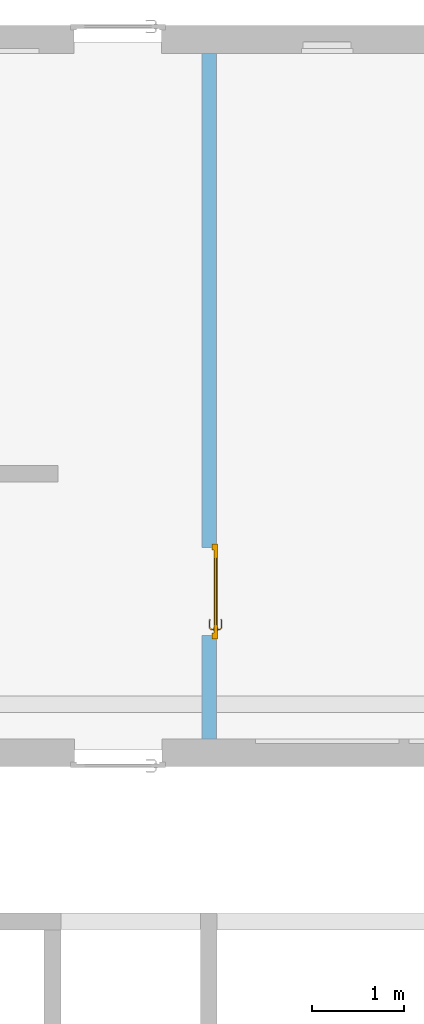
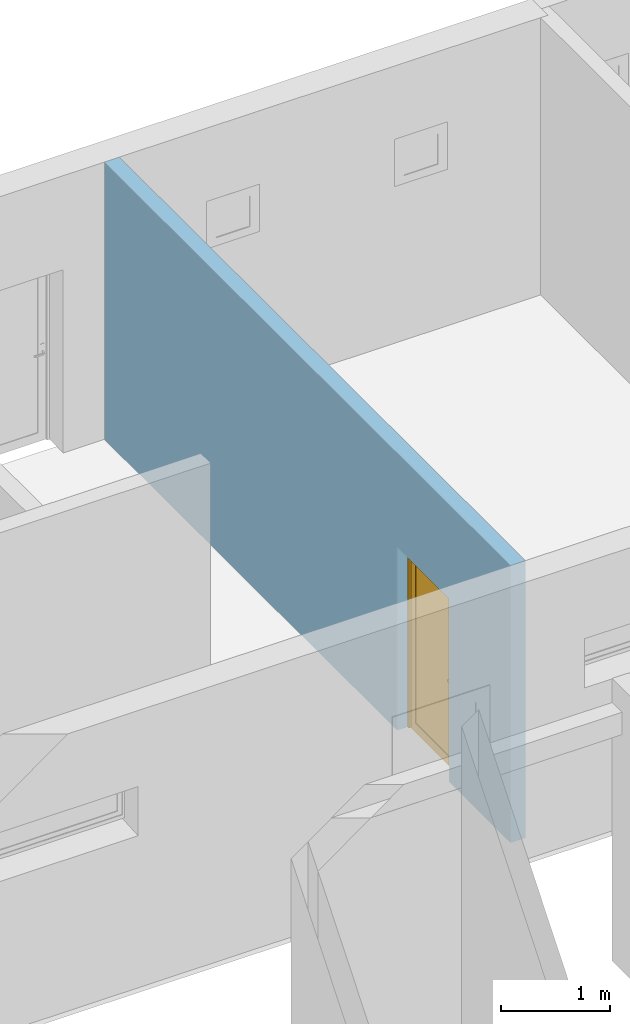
# One storey, part 6 of 9: 1 door, 1 opening, plus 1 element that does not belong to this part.
"""IFC2X3 building model written with IfcOpenShell, lengths in metres."""

from ifc_helpers import new_model, entity, si_unit, converted_unit, derived_unit, direction, frame, frame_2d, origin, place, context, subcontext, project, spatial, polyline, rectangle, extrude, clip, bounded_halfspace, faceted_brep, source, transform, mapped, material, layer, layer_set, layer_usage, type_object, type_shapes, element, fill, save


model = new_model("IFC2X3")

# Units and contexts
model_context = context("Model", 3, precision=1e-05, world=origin(), true_north=direction((6.12303176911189e-17, 1.0)))
body_context = subcontext(model_context, "Body", "Model", "MODEL_VIEW")
ifc_project = project(units=[si_unit("LENGTHUNIT", "METRE"), si_unit("AREAUNIT", "SQUARE_METRE"), si_unit("VOLUMEUNIT", "CUBIC_METRE"), converted_unit("PLANEANGLEUNIT", "DEGREE", entity("IfcRatioMeasure", 0.0174532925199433), si_unit("PLANEANGLEUNIT", "RADIAN"), dimensions=[0, 0, 0, 0, 0, 0, 0]), si_unit("MASSUNIT", "GRAM", prefix="KILO"), derived_unit("MASSDENSITYUNIT", [(si_unit("MASSUNIT", "GRAM", prefix="KILO"), 1), (si_unit("LENGTHUNIT", "METRE"), -3)]), si_unit("TIMEUNIT", "SECOND"), si_unit("FREQUENCYUNIT", "HERTZ"), si_unit("THERMODYNAMICTEMPERATUREUNIT", "DEGREE_CELSIUS"), derived_unit("THERMALTRANSMITTANCEUNIT", [(si_unit("MASSUNIT", "GRAM", prefix="KILO"), 1), (si_unit("THERMODYNAMICTEMPERATUREUNIT", "KELVIN"), -1), (si_unit("TIMEUNIT", "SECOND"), -3)]), derived_unit("VOLUMETRICFLOWRATEUNIT", [(si_unit("LENGTHUNIT", "METRE"), 3), (si_unit("TIMEUNIT", "SECOND"), -1)]), si_unit("ELECTRICCURRENTUNIT", "AMPERE"), si_unit("ELECTRICVOLTAGEUNIT", "VOLT"), si_unit("POWERUNIT", "WATT"), si_unit("FORCEUNIT", "NEWTON", prefix="KILO"), si_unit("ILLUMINANCEUNIT", "LUX"), si_unit("LUMINOUSFLUXUNIT", "LUMEN"), si_unit("LUMINOUSINTENSITYUNIT", "CANDELA"), derived_unit("USERDEFINED", [(si_unit("MASSUNIT", "GRAM", prefix="KILO"), -1), (si_unit("LENGTHUNIT", "METRE"), -2), (si_unit("TIMEUNIT", "SECOND"), 3), (si_unit("LUMINOUSFLUXUNIT", "LUMEN"), 1)]), derived_unit("LINEARVELOCITYUNIT", [(si_unit("LENGTHUNIT", "METRE"), 1), (si_unit("TIMEUNIT", "SECOND"), -1)]), si_unit("PRESSUREUNIT", "PASCAL"), derived_unit("USERDEFINED", [(si_unit("LENGTHUNIT", "METRE"), -2), (si_unit("MASSUNIT", "GRAM", prefix="KILO"), 1), (si_unit("TIMEUNIT", "SECOND"), -2)])], contexts=[model_context])

# Site, building, storey
site_placement = place(None, origin())
site = spatial("IfcSite", under=ifc_project, at=site_placement, Name="Default", CompositionType="ELEMENT")
building_placement = place(site_placement, origin())
building = spatial("IfcBuilding", under=site, at=building_placement, CompositionType="ELEMENT")
storey_placement = place(building_placement, origin())
storey = spatial("IfcBuildingStorey", under=building, at=storey_placement, Name="Niveau 0", CompositionType="ELEMENT", Elevation=-1.94916083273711e-14)

# Wall, opening, door
ifc_material_1 = material(Name="Maçonnerie - Voile BA")
ifc_layer = layer(ifc_material_1, 0.16)
ifc_layer_set = layer_set([ifc_layer], Name="Mur de base:Refend. Voile BA 16")
ifc_layer_usage = layer_usage(ifc_layer_set, "AXIS2", "NEGATIVE", 0.08)
wall_type = type_object("IfcWallType", Name="Mur de base:Refend. Voile BA 16", PredefinedType="STANDARD", material=ifc_layer_set)
wall_placement = place(storey_placement, frame((-1.33395876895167, -4.73088141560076, 0.0), z_axis=(0.0, 0.0, 1.0), x_axis=(0.0, 1.0, 0.0)))
wall = element("IfcWallStandardCase", 1, at=wall_placement, inside=storey, type_object=wall_type, material=ifc_layer_usage, Name="Mur de base:Refend. Voile BA 16", ObjectType="Mur de base:Refend. Voile BA 16", context=body_context, shape_type="Clipping", body=[
    clip(extrude(rectangle(XDim=7.44, YDim=0.16, at=frame_2d((3.72, 0.0), x_axis=(-1.0, 0.0))), origin(), (0.0, 0.0, 1.0), 3.10000000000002), bounded_halfspace(frame((0.0, -0.0799999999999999, 3.10000000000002), z_axis=(0.0, 0.0, -1.0), x_axis=(0.0, -1.0, 0.0)), True, frame((0.0, -0.0799999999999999, 3.10000000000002)), polyline([(0.0, 0.0), (7.44, 0.0), (7.44, 0.159999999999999), (0.0, 0.16), (0.0, 0.0)]))),
])
opening_placement = place(wall_placement, frame((1.08500000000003, 0.380000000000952, 0.0), z_axis=(0.0, 0.0, 1.0), x_axis=(0.0, -1.0, 0.0)))
opening = element("IfcOpeningElement", 2, at=opening_placement, cuts=wall, Name="Mur de base:Refend. Voile BA 16", ObjectType="Opening", context=body_context, shape_type="Brep", body=[
    faceted_brep([(0.760000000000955, 0.989999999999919, 2.05000000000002), (0.460000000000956, 0.989999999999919, 2.05000000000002), (0.460000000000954, 0.0400000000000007, 2.05000000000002), (0.760000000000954, 0.0400000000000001, 2.05000000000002), (0.0, 0.98999999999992, 0.0), (0.410000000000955, 0.989999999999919, 0.0), (0.410000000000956, 1.02999999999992, 0.0), (0.460000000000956, 1.02999999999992, 0.0), (0.460000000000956, 0.989999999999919, 0.0), (0.760000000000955, 0.989999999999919, 0.0), (0.760000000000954, 0.0400000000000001, 0.0), (0.460000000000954, 0.0400000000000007, 0.0), (0.460000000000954, 0.0, 0.0), (0.410000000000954, 0.0, 0.0), (0.410000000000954, 0.0400000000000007, 0.0), (0.0, 0.0400000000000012, 0.0), (0.0, 0.98999999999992, 2.05000000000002), (0.0, 0.0400000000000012, 2.05000000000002), (0.410000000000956, 0.989999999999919, 2.05000000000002), (0.460000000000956, 1.02999999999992, 2.09000000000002), (0.460000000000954, 0.0, 2.09000000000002), (0.410000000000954, 0.0, 2.09000000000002), (0.410000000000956, 1.02999999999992, 2.09000000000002), (0.410000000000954, 0.0400000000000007, 2.05000000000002)], [[[0, 1, 2, 3]], [[4, 5, 6, 7, 8, 9, 10, 11, 12, 13, 14, 15]], [[16, 4, 15, 17]], [[3, 2, 11, 10]], [[3, 10, 9, 0]], [[16, 18, 5, 4]], [[11, 2, 1, 8, 7, 19, 20, 12]], [[12, 20, 21, 13]], [[13, 21, 22, 6, 5, 18, 23, 14]], [[19, 22, 21, 20]], [[7, 6, 22, 19]], [[9, 8, 1, 0]], [[15, 14, 23, 17]], [[17, 23, 18, 16]]]),
])
ifc_material_2 = material(Name="PVC - Blanc")
door_style = type_object("IfcDoorStyle", Name="0.93 x 2.04", ConstructionType="NOTDEFINED", OperationType="SINGLE_SWING_RIGHT", ParameterTakesPrecedence=False, Sizeable=False, material=ifc_material_2)
shared_shape = source(origin(), body_context, "Body", "Brep", [
    faceted_brep([(0.102974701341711, -0.425000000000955, 1.00778044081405), (0.0989999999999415, -0.425000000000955, 1.00699999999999), (0.0989999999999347, -0.425000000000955, 0.992999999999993), (0.102974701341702, -0.425000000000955, 0.992219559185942), (0.107025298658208, -0.425000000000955, 0.992219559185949), (0.11099999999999, -0.425000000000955, 0.993000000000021), (0.110999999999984, -0.425000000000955, 1.00699999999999), (0.107025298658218, -0.425000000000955, 1.00778044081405), (0.11099999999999, -0.402514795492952, 0.993000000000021), (0.11099999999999, -0.402514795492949, 1.00699999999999), (0.107025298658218, -0.400868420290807, 1.00778044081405), (0.120838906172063, -0.387054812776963, 1.00778044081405), (0.119161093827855, -0.383004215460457, 1.00778044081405), (0.102974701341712, -0.399190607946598, 1.00778044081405), (0.210684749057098, -0.393532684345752, 1.00778044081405), (0.213548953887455, -0.390668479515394, 1.00778044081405), (0.205884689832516, -0.383004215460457, 1.00778044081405), (0.204206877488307, -0.387054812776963, 1.00778044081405), (0.0989999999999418, -0.397544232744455, 1.00699999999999), (0.0989999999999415, -0.397544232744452, 0.992999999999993), (0.102974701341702, -0.399190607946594, 0.992219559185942), (0.119161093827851, -0.383004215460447, 0.992219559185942), (0.120838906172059, -0.387054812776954, 0.992219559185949), (0.107025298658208, -0.400868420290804, 0.992219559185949), (0.213548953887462, -0.390668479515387, 0.992219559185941), (0.210684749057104, -0.393532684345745, 0.992219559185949), (0.204206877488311, -0.387054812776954, 0.992219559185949), (0.20588468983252, -0.383004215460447, 0.992219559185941), (0.122485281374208, -0.391029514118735, 0.993000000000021), (0.12248528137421, -0.391029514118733, 1.00699999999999), (0.117514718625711, -0.379029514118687, 1.00699999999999), (0.117514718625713, -0.379029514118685, 0.992999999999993), (0.162522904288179, -0.391029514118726, 0.993000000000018), (0.202560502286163, -0.391029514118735, 0.993000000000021), (0.202560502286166, -0.391029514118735, 1.00699999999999), (0.162522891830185, -0.391029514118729, 1.00699999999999), (0.162522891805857, -0.38487507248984, 1.00787811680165), (0.20753106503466, -0.379029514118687, 1.00699999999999), (0.167600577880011, -0.379029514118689, 1.00699999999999), (0.207531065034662, -0.379029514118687, 0.992999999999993), (0.157445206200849, -0.37902951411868, 0.992999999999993), (0.162522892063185, -0.38487507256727, 0.992121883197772), (0.207874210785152, -0.396343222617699, 0.993000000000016), (0.216359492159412, -0.387857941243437, 0.992999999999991), (0.216359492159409, -0.387857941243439, 1.00699999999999), (0.20787421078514, -0.39634322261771, 1.00699999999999)], [[[0, 1, 2, 3, 4, 5, 6, 7]], [[6, 5, 8, 9]], [[9, 10, 7, 6]], [[10, 11, 12, 13, 0, 7]], [[14, 15, 16, 17]], [[13, 18, 1, 0]], [[2, 1, 18, 19]], [[19, 20, 3, 2]], [[20, 21, 22, 23, 4, 3]], [[24, 25, 26, 27]], [[23, 8, 5, 4]], [[9, 8, 28, 29]], [[29, 11, 10, 9]], [[12, 30, 18, 13]], [[19, 18, 30, 31]], [[31, 21, 20, 19]], [[22, 28, 8, 23]], [[29, 28, 32, 33, 34, 35]], [[11, 35, 36]], [[16, 37, 38]], [[30, 12, 38]], [[38, 12, 36]], [[36, 35, 17]], [[17, 16, 36]], [[35, 11, 29]], [[34, 17, 35]], [[11, 36, 12]], [[38, 36, 16]], [[31, 30, 38, 37, 39, 40]], [[40, 41, 21]], [[41, 40, 27]], [[21, 31, 40]], [[39, 27, 40]], [[41, 32, 22]], [[22, 21, 41]], [[26, 32, 41]], [[28, 22, 32]], [[32, 26, 33]], [[26, 41, 27]], [[42, 25, 24, 43, 44, 15, 14, 45]], [[34, 33, 42, 45]], [[45, 14, 17, 34]], [[15, 44, 37, 16]], [[39, 37, 44, 43]], [[43, 24, 27, 39]], [[25, 42, 33, 26]]]),
    faceted_brep([(0.102974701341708, -0.475000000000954, 1.00778044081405), (0.107025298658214, -0.475000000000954, 1.00778044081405), (0.110999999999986, -0.475000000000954, 1.00699999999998), (0.11099999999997, -0.475000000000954, 0.993000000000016), (0.107025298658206, -0.475000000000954, 0.992219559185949), (0.1029747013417, -0.475000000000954, 0.992219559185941), (0.0989999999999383, -0.475000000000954, 0.992999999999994), (0.0989999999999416, -0.475000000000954, 1.00699999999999), (0.0989999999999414, -0.50265095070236, 1.00699999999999), (0.102974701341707, -0.501004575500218, 1.00778044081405), (0.11902358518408, -0.517053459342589, 1.00778044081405), (0.120701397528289, -0.513002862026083, 1.00778044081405), (0.107025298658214, -0.499326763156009, 1.00778044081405), (0.21352181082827, -0.509389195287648, 1.00778044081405), (0.210657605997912, -0.50652499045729, 1.00778044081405), (0.204179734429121, -0.513002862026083, 1.00778044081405), (0.20585754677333, -0.517053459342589, 1.00778044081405), (0.110999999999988, -0.497680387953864, 1.00699999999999), (0.110999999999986, -0.497680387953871, 0.993000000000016), (0.107025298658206, -0.499326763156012, 0.992219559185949), (0.120701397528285, -0.513002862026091, 0.992219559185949), (0.119023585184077, -0.517053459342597, 0.992219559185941), (0.1029747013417, -0.501004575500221, 0.992219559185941), (0.210657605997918, -0.506524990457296, 0.992219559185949), (0.213521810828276, -0.509389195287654, 0.992219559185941), (0.205857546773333, -0.517053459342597, 0.992219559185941), (0.204179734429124, -0.513002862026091, 0.992219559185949), (0.0989999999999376, -0.502650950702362, 0.992999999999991), (0.117377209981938, -0.521028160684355, 1.00699999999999), (0.122347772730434, -0.509028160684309, 1.00699999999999), (0.122347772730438, -0.509028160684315, 0.993000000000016), (0.117377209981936, -0.521028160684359, 0.992999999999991), (0.157307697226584, -0.521028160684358, 1.00699999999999), (0.162440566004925, -0.515182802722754, 1.00787811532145), (0.207503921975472, -0.521028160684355, 1.00699999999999), (0.162440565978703, -0.509028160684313, 1.00699999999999), (0.202533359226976, -0.509028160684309, 1.00699999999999), (0.202533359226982, -0.50902816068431, 0.993000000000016), (0.162440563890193, -0.509028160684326, 0.993000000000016), (0.1624405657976, -0.515182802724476, 0.992121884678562), (0.207503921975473, -0.521028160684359, 0.992999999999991), (0.167573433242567, -0.521028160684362, 0.992999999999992), (0.207847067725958, -0.503714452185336, 1.00699999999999), (0.216332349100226, -0.512199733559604, 1.00699999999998), (0.216332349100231, -0.512199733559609, 0.992999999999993), (0.207847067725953, -0.503714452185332, 0.993000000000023)], [[[0, 1, 2, 3, 4, 5, 6, 7]], [[8, 9, 0, 7]], [[9, 10, 11, 12, 1, 0]], [[13, 14, 15, 16]], [[12, 17, 2, 1]], [[3, 2, 17, 18]], [[18, 19, 4, 3]], [[19, 20, 21, 22, 5, 4]], [[23, 24, 25, 26]], [[22, 27, 6, 5]], [[7, 6, 27, 8]], [[28, 10, 9, 8]], [[11, 29, 17, 12]], [[18, 17, 29, 30]], [[30, 20, 19, 18]], [[21, 31, 27, 22]], [[8, 27, 31, 28]], [[32, 33, 10]], [[33, 32, 16]], [[10, 28, 32]], [[34, 16, 32]], [[33, 35, 11]], [[11, 10, 33]], [[15, 35, 33]], [[29, 11, 35]], [[35, 15, 36]], [[15, 33, 16]], [[30, 29, 35, 36, 37, 38]], [[20, 38, 39]], [[25, 40, 41]], [[31, 21, 41]], [[41, 21, 39]], [[39, 38, 26]], [[26, 25, 39]], [[38, 20, 30]], [[37, 26, 38]], [[20, 39, 21]], [[41, 39, 25]], [[28, 31, 41, 40, 34, 32]], [[42, 14, 13, 43, 44, 24, 23, 45]], [[43, 13, 16, 34]], [[14, 42, 36, 15]], [[37, 36, 42, 45]], [[45, 23, 26, 37]], [[24, 44, 40, 25]], [[34, 40, 44, 43]]]),
    faceted_brep([(0.11535276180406, -0.430000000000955, 0.866003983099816), (0.124999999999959, -0.430000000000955, 0.870000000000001), (0.124999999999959, -0.430000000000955, 1.08), (0.11535276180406, -0.430000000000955, 1.08399601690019), (0.104999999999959, -0.430000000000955, 1.08535898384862), (0.0946472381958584, -0.430000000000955, 1.08399601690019), (0.0849999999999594, -0.430000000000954, 1.08), (0.0849999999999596, -0.430000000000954, 0.870000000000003), (0.0946472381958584, -0.430000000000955, 0.866003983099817), (0.104999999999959, -0.430000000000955, 0.864641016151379), (0.11535276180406, -0.425000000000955, 1.08399601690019), (0.124999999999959, -0.425000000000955, 1.08), (0.124999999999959, -0.425000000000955, 0.870000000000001), (0.11535276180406, -0.425000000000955, 0.866003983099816), (0.104999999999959, -0.425000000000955, 0.864641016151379), (0.0946472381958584, -0.425000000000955, 0.866003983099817), (0.0849999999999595, -0.425000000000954, 0.870000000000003), (0.0849999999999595, -0.425000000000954, 1.08), (0.0946472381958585, -0.425000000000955, 1.08399601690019), (0.104999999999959, -0.425000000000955, 1.08535898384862)], [[[0, 1, 2, 3, 4, 5, 6, 7, 8, 9]], [[10, 11, 12, 13, 14, 15, 16, 17, 18, 19]], [[11, 10, 3, 2]], [[3, 10, 19, 4]], [[19, 18, 5, 4]], [[18, 17, 6, 5]], [[7, 6, 17, 16]], [[16, 15, 8, 7]], [[8, 15, 14, 9]], [[14, 13, 0, 9]], [[13, 12, 1, 0]], [[2, 1, 12, 11]]]),
    faceted_brep([(0.11535276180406, -0.475000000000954, 0.866003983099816), (0.124999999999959, -0.475000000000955, 0.870000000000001), (0.124999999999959, -0.475000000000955, 1.08), (0.11535276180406, -0.475000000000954, 1.08399601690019), (0.104999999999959, -0.475000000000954, 1.08535898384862), (0.0946472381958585, -0.475000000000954, 1.08399601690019), (0.0849999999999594, -0.475000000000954, 1.08), (0.0849999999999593, -0.475000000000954, 0.870000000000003), (0.0946472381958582, -0.475000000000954, 0.866003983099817), (0.104999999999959, -0.475000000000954, 0.864641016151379), (0.11535276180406, -0.470000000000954, 1.08399601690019), (0.124999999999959, -0.470000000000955, 1.08), (0.124999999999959, -0.470000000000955, 0.870000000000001), (0.11535276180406, -0.470000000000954, 0.866003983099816), (0.104999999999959, -0.470000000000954, 0.864641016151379), (0.0946472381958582, -0.470000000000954, 0.866003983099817), (0.0849999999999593, -0.470000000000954, 0.870000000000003), (0.0849999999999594, -0.470000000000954, 1.08), (0.0946472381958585, -0.470000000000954, 1.08399601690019), (0.104999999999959, -0.470000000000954, 1.08535898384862)], [[[0, 1, 2, 3, 4, 5, 6, 7, 8, 9]], [[10, 11, 12, 13, 14, 15, 16, 17, 18, 19]], [[16, 15, 8, 7]], [[8, 15, 14, 9]], [[14, 13, 0, 9]], [[13, 12, 1, 0]], [[2, 1, 12, 11]], [[11, 10, 3, 2]], [[3, 10, 19, 4]], [[19, 18, 5, 4]], [[18, 17, 6, 5]], [[7, 6, 17, 16]]]),
    faceted_brep([(0.0, -0.470000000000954, 0.0), (0.0, -0.410000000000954, 0.0), (0.0649999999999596, -0.410000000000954, 0.0), (0.0649999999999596, -0.430000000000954, 0.0), (0.0499999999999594, -0.430000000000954, 0.0), (0.0499999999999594, -0.470000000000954, 0.0), (0.0, -0.470000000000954, 2.09000000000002), (0.0, -0.410000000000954, 2.09000000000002), (1.02999999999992, -0.410000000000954, 2.09000000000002), (1.02999999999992, -0.410000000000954, 0.0), (0.964999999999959, -0.410000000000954, 0.0), (0.964999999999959, -0.410000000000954, 2.02500000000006), (0.0649999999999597, -0.410000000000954, 2.02500000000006), (0.0649999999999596, -0.430000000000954, 2.02500000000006), (0.964999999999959, -0.430000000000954, 2.02500000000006), (0.964999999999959, -0.430000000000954, 0.0), (0.979999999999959, -0.430000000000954, 0.0), (0.97999999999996, -0.430000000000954, 2.04000000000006), (0.0499999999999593, -0.430000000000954, 2.04000000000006), (0.0499999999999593, -0.470000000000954, 2.04000000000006), (0.979999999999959, -0.470000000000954, 2.04000000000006), (0.97999999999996, -0.470000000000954, 0.0), (1.02999999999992, -0.470000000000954, 0.0), (1.02999999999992, -0.470000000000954, 2.09000000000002)], [[[0, 1, 2, 3, 4, 5]], [[1, 0, 6, 7]], [[2, 1, 7, 8, 9, 10, 11, 12]], [[3, 2, 12, 13]], [[4, 3, 13, 14, 15, 16, 17, 18]], [[5, 4, 18, 19]], [[0, 5, 19, 20, 21, 22, 23, 6]], [[9, 8, 23, 22]], [[10, 9, 22, 21, 16, 15]], [[11, 10, 15, 14]], [[17, 16, 21, 20]], [[7, 6, 23, 8]], [[12, 11, 14, 13]], [[18, 17, 20, 19]]]),
    faceted_brep([(0.0499999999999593, -0.470000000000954, 2.04000000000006), (0.0499999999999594, -0.470000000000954, 0.0), (0.97999999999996, -0.470000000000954, 0.0), (0.97999999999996, -0.470000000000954, 2.04000000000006), (0.880000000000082, -0.470000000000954, 1.95000000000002), (0.88000000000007, -0.470000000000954, 0.0999999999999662), (0.150000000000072, -0.470000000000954, 0.0999999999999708), (0.150000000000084, -0.470000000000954, 1.95000000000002), (0.0499999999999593, -0.430000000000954, 2.04000000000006), (0.97999999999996, -0.430000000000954, 2.04000000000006), (0.97999999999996, -0.430000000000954, 0.0), (0.0499999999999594, -0.430000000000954, 0.0), (0.150000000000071, -0.430000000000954, 1.95000000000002), (0.150000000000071, -0.430000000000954, 0.100000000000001), (0.88000000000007, -0.430000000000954, 0.100000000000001), (0.880000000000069, -0.430000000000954, 1.95000000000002), (0.880000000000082, -0.462000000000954, 1.95000000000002), (0.150000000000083, -0.462000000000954, 1.95000000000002), (0.150000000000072, -0.462000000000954, 0.0999999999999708), (0.88000000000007, -0.462000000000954, 0.0999999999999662), (0.150000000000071, -0.438000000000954, 1.95000000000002), (0.880000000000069, -0.438000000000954, 1.95000000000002), (0.88000000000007, -0.438000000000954, 0.100000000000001), (0.150000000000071, -0.438000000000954, 0.100000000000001)], [[[0, 1, 2, 3], [4, 5, 6, 7]], [[8, 9, 10, 11], [12, 13, 14, 15]], [[1, 0, 8, 11]], [[2, 1, 11, 10]], [[3, 2, 10, 9]], [[0, 3, 9, 8]], [[16, 17, 18, 19]], [[16, 19, 5, 4]], [[19, 18, 6, 5]], [[18, 17, 7, 6]], [[17, 16, 4, 7]], [[20, 21, 22, 23]], [[20, 23, 13, 12]], [[23, 22, 14, 13]], [[22, 21, 15, 14]], [[21, 20, 12, 15]]]),
])
type_shapes(door_style, [shared_shape])
door_placement = place(opening_placement, frame((0.0, 0.0, 0.0), z_axis=(0.0, 0.0, 1.0), x_axis=(0.0, 1.0, 0.0)))
door = element("IfcDoor", 3, at=door_placement, inside=storey, type_object=door_style, material=ifc_material_2, Name="PVC Panneau Plein:0.93 x 2.04", ObjectType="0.93 x 2.04", OverallHeight=2.09000000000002, OverallWidth=1.02999999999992, context=body_context, shape_type="MappedRepresentation", body=[
    mapped(shared_shape, transform((0.0, 0.0, 0.0), scale=1.0)),
])
fill(opening, door)

save(model, "model.ifc")
